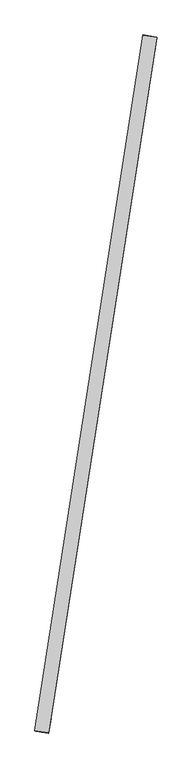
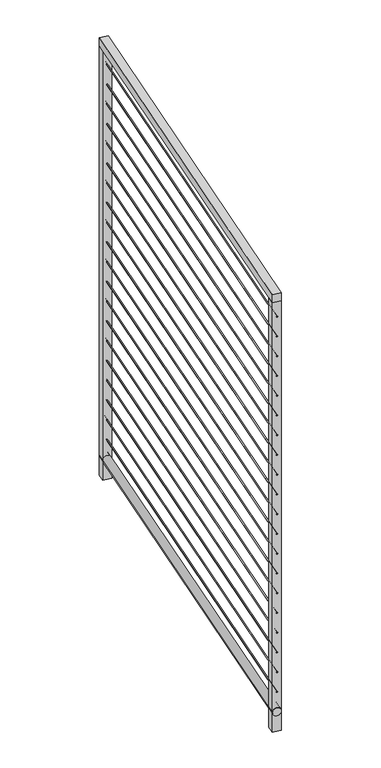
"""IFC4 building model written with IfcOpenShell, lengths in millimetres: railing geometry, Reja acceso."""

from ifc_helpers import new_model, si_unit, point, frame, origin, origin_2d, place, context, project, spatial, polyline, circle_curve, trimmed, segment, composite_curve, outline, extrude, source, transform, mapped, element, save


def railing_c11fd881(model_context):
    return source(origin(), model_context, "Body", "SweptSolid", [
        extrude(outline(polyline([(-41937.5554049, -60729.8911483), (-41898.0326326, -60736.0515435), (-42205.1089787, -62706.1375806), (-42244.631751, -62699.9771854), (-41937.5554049, -60729.8911483)])), frame((0.0, 0.0, 2025.385397), z_axis=(0.0, 0.0, 1.0), x_axis=(1.0, 0.0, 0.0)), (0.0, 0.0, 1.0), 40.0),
        extrude(outline(composite_curve([segment(trimmed(circle_curve(origin_2d(), 2.5), [point((2.5, 0.0))], [point((-2.4999999, 0.0))], False, "CARTESIAN"), True, "CONTINUOUS"), segment(trimmed(circle_curve(origin_2d(), 2.5), [point((-2.4999999, 0.0))], [point((2.5, 0.0))], False, "CARTESIAN"), True, "CONTINUOUS")], self_intersect=False)), frame((-42224.8703649, -62703.057383, 1950.0), z_axis=(0.154009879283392, 0.9880693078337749, 0.0), x_axis=(0.9880693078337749, -0.154009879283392, 0.0)), (0.0, 0.0, 1.0), 1993.8743381),
        extrude(outline(composite_curve([segment(trimmed(circle_curve(origin_2d(), 2.5), [point((2.5, 0.0))], [point((-2.4999999, 0.0))], False, "CARTESIAN"), True, "CONTINUOUS"), segment(trimmed(circle_curve(origin_2d(), 2.5), [point((-2.4999999, 0.0))], [point((2.5, 0.0))], False, "CARTESIAN"), True, "CONTINUOUS")], self_intersect=False)), frame((-42224.8703649, -62703.057383, 1850.0), z_axis=(0.154009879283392, 0.9880693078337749, 0.0), x_axis=(0.9880693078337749, -0.154009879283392, 0.0)), (0.0, 0.0, 1.0), 1993.8743381),
        extrude(outline(composite_curve([segment(trimmed(circle_curve(origin_2d(), 2.5), [point((2.5, 0.0))], [point((-2.4999999, 0.0))], False, "CARTESIAN"), True, "CONTINUOUS"), segment(trimmed(circle_curve(origin_2d(), 2.5), [point((-2.4999999, 0.0))], [point((2.5, 0.0))], False, "CARTESIAN"), True, "CONTINUOUS")], self_intersect=False)), frame((-42224.8703649, -62703.057383, 1750.0), z_axis=(0.154009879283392, 0.9880693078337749, 0.0), x_axis=(0.9880693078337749, -0.154009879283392, 0.0)), (0.0, 0.0, 1.0), 1993.8743381),
        extrude(outline(composite_curve([segment(trimmed(circle_curve(origin_2d(), 2.5), [point((2.5, 0.0))], [point((-2.4999999, 0.0))], False, "CARTESIAN"), True, "CONTINUOUS"), segment(trimmed(circle_curve(origin_2d(), 2.5), [point((-2.4999999, 0.0))], [point((2.5, 0.0))], False, "CARTESIAN"), True, "CONTINUOUS")], self_intersect=False)), frame((-42224.8703649, -62703.057383, 1650.0), z_axis=(0.154009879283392, 0.9880693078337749, 0.0), x_axis=(0.9880693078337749, -0.154009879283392, 0.0)), (0.0, 0.0, 1.0), 1993.8743381),
        extrude(outline(composite_curve([segment(trimmed(circle_curve(origin_2d(), 2.5), [point((2.5, 0.0))], [point((-2.4999999, 0.0))], False, "CARTESIAN"), True, "CONTINUOUS"), segment(trimmed(circle_curve(origin_2d(), 2.5), [point((-2.4999999, 0.0))], [point((2.5, 0.0))], False, "CARTESIAN"), True, "CONTINUOUS")], self_intersect=False)), frame((-42224.8703649, -62703.057383, 1550.0), z_axis=(0.154009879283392, 0.9880693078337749, 0.0), x_axis=(0.9880693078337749, -0.154009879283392, 0.0)), (0.0, 0.0, 1.0), 1993.8743381),
        extrude(outline(composite_curve([segment(trimmed(circle_curve(origin_2d(), 2.5), [point((2.5, 0.0))], [point((-2.4999999, 0.0))], False, "CARTESIAN"), True, "CONTINUOUS"), segment(trimmed(circle_curve(origin_2d(), 2.5), [point((-2.4999999, 0.0))], [point((2.5, 0.0))], False, "CARTESIAN"), True, "CONTINUOUS")], self_intersect=False)), frame((-42224.8703649, -62703.057383, 1450.0), z_axis=(0.154009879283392, 0.9880693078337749, 0.0), x_axis=(0.9880693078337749, -0.154009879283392, 0.0)), (0.0, 0.0, 1.0), 1993.8743381),
        extrude(outline(composite_curve([segment(trimmed(circle_curve(origin_2d(), 2.5), [point((2.5, 0.0))], [point((-2.4999999, 0.0))], False, "CARTESIAN"), True, "CONTINUOUS"), segment(trimmed(circle_curve(origin_2d(), 2.5), [point((-2.4999999, 0.0))], [point((2.5, 0.0))], False, "CARTESIAN"), True, "CONTINUOUS")], self_intersect=False)), frame((-42224.8703649, -62703.057383, 1350.0), z_axis=(0.154009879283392, 0.9880693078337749, 0.0), x_axis=(0.9880693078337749, -0.154009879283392, 0.0)), (0.0, 0.0, 1.0), 1993.8743381),
        extrude(outline(composite_curve([segment(trimmed(circle_curve(origin_2d(), 2.5), [point((2.5, 0.0))], [point((-2.4999999, 0.0))], False, "CARTESIAN"), True, "CONTINUOUS"), segment(trimmed(circle_curve(origin_2d(), 2.5), [point((-2.4999999, 0.0))], [point((2.5, 0.0))], False, "CARTESIAN"), True, "CONTINUOUS")], self_intersect=False)), frame((-42224.8703649, -62703.057383, 1250.0), z_axis=(0.154009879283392, 0.9880693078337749, 0.0), x_axis=(0.9880693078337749, -0.154009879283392, 0.0)), (0.0, 0.0, 1.0), 1993.8743381),
        extrude(outline(composite_curve([segment(trimmed(circle_curve(origin_2d(), 2.5), [point((2.5, 0.0))], [point((-2.4999999, 0.0))], False, "CARTESIAN"), True, "CONTINUOUS"), segment(trimmed(circle_curve(origin_2d(), 2.5), [point((-2.4999999, 0.0))], [point((2.5, 0.0))], False, "CARTESIAN"), True, "CONTINUOUS")], self_intersect=False)), frame((-42224.8703649, -62703.057383, 1150.0), z_axis=(0.154009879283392, 0.9880693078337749, 0.0), x_axis=(0.9880693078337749, -0.154009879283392, 0.0)), (0.0, 0.0, 1.0), 1993.8743381),
        extrude(outline(composite_curve([segment(trimmed(circle_curve(origin_2d(), 2.5), [point((2.5, 0.0))], [point((-2.4999999, 0.0))], False, "CARTESIAN"), True, "CONTINUOUS"), segment(trimmed(circle_curve(origin_2d(), 2.5), [point((-2.4999999, 0.0))], [point((2.5, 0.0))], False, "CARTESIAN"), True, "CONTINUOUS")], self_intersect=False)), frame((-42224.8703649, -62703.057383, 1050.0), z_axis=(0.154009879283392, 0.9880693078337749, 0.0), x_axis=(0.9880693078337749, -0.154009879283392, 0.0)), (0.0, 0.0, 1.0), 1993.8743381),
        extrude(outline(composite_curve([segment(trimmed(circle_curve(origin_2d(), 2.5), [point((2.5, 0.0))], [point((-2.4999999, 0.0))], False, "CARTESIAN"), True, "CONTINUOUS"), segment(trimmed(circle_curve(origin_2d(), 2.5), [point((-2.4999999, 0.0))], [point((2.5, 0.0))], False, "CARTESIAN"), True, "CONTINUOUS")], self_intersect=False)), frame((-42224.8703649, -62703.057383, 950.0), z_axis=(0.154009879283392, 0.9880693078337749, 0.0), x_axis=(0.9880693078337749, -0.154009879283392, 0.0)), (0.0, 0.0, 1.0), 1993.8743381),
        extrude(outline(composite_curve([segment(trimmed(circle_curve(origin_2d(), 2.5), [point((2.5, 0.0))], [point((-2.4999999, 0.0))], False, "CARTESIAN"), True, "CONTINUOUS"), segment(trimmed(circle_curve(origin_2d(), 2.5), [point((-2.4999999, 0.0))], [point((2.5, 0.0))], False, "CARTESIAN"), True, "CONTINUOUS")], self_intersect=False)), frame((-42224.8703649, -62703.057383, 850.0), z_axis=(0.154009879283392, 0.9880693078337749, 0.0), x_axis=(0.9880693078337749, -0.154009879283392, 0.0)), (0.0, 0.0, 1.0), 1993.8743381),
        extrude(outline(composite_curve([segment(trimmed(circle_curve(origin_2d(), 2.5), [point((2.5, 0.0))], [point((-2.4999999, 0.0))], False, "CARTESIAN"), True, "CONTINUOUS"), segment(trimmed(circle_curve(origin_2d(), 2.5), [point((-2.4999999, 0.0))], [point((2.5, 0.0))], False, "CARTESIAN"), True, "CONTINUOUS")], self_intersect=False)), frame((-42224.8703649, -62703.057383, 750.0), z_axis=(0.154009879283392, 0.9880693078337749, 0.0), x_axis=(0.9880693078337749, -0.154009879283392, 0.0)), (0.0, 0.0, 1.0), 1993.8743381),
        extrude(outline(composite_curve([segment(trimmed(circle_curve(origin_2d(), 2.5), [point((2.5, 0.0))], [point((-2.4999999, 0.0))], False, "CARTESIAN"), True, "CONTINUOUS"), segment(trimmed(circle_curve(origin_2d(), 2.5), [point((-2.4999999, 0.0))], [point((2.5, 0.0))], False, "CARTESIAN"), True, "CONTINUOUS")], self_intersect=False)), frame((-42224.8703649, -62703.057383, 650.0), z_axis=(0.154009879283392, 0.9880693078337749, 0.0), x_axis=(0.9880693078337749, -0.154009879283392, 0.0)), (0.0, 0.0, 1.0), 1993.8743381),
        extrude(outline(composite_curve([segment(trimmed(circle_curve(origin_2d(), 2.5), [point((2.5, 0.0))], [point((-2.4999999, 0.0))], False, "CARTESIAN"), True, "CONTINUOUS"), segment(trimmed(circle_curve(origin_2d(), 2.5), [point((-2.4999999, 0.0))], [point((2.5, 0.0))], False, "CARTESIAN"), True, "CONTINUOUS")], self_intersect=False)), frame((-42224.8703649, -62703.057383, 550.0), z_axis=(0.154009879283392, 0.9880693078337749, 0.0), x_axis=(0.9880693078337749, -0.154009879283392, 0.0)), (0.0, 0.0, 1.0), 1993.8743381),
        extrude(outline(composite_curve([segment(trimmed(circle_curve(origin_2d(), 2.5), [point((2.5, 0.0))], [point((-2.4999999, 0.0))], False, "CARTESIAN"), True, "CONTINUOUS"), segment(trimmed(circle_curve(origin_2d(), 2.5), [point((-2.4999999, 0.0))], [point((2.5, 0.0))], False, "CARTESIAN"), True, "CONTINUOUS")], self_intersect=False)), frame((-42224.8703649, -62703.057383, 450.0), z_axis=(0.154009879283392, 0.9880693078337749, 0.0), x_axis=(0.9880693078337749, -0.154009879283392, 0.0)), (0.0, 0.0, 1.0), 1993.8743381),
        extrude(outline(composite_curve([segment(trimmed(circle_curve(origin_2d(), 2.5), [point((2.5, 0.0))], [point((-2.4999999, 0.0))], False, "CARTESIAN"), True, "CONTINUOUS"), segment(trimmed(circle_curve(origin_2d(), 2.5), [point((-2.4999999, 0.0))], [point((2.5, 0.0))], False, "CARTESIAN"), True, "CONTINUOUS")], self_intersect=False)), frame((-42224.8703649, -62703.057383, 350.0), z_axis=(0.154009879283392, 0.9880693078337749, 0.0), x_axis=(0.9880693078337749, -0.154009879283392, 0.0)), (0.0, 0.0, 1.0), 1993.8743381),
        extrude(outline(composite_curve([segment(trimmed(circle_curve(origin_2d(), 2.5), [point((2.5, 0.0))], [point((-2.4999999, 0.0))], False, "CARTESIAN"), True, "CONTINUOUS"), segment(trimmed(circle_curve(origin_2d(), 2.5), [point((-2.4999999, 0.0))], [point((2.5, 0.0))], False, "CARTESIAN"), True, "CONTINUOUS")], self_intersect=False)), frame((-42224.8703649, -62703.057383, 250.0), z_axis=(0.154009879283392, 0.9880693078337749, 0.0), x_axis=(0.9880693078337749, -0.154009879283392, 0.0)), (0.0, 0.0, 1.0), 1993.8743381),
        extrude(outline(composite_curve([segment(trimmed(circle_curve(origin_2d(), 2.5), [point((2.5, 0.0))], [point((-2.4999999, 0.0))], False, "CARTESIAN"), True, "CONTINUOUS"), segment(trimmed(circle_curve(origin_2d(), 2.5), [point((-2.4999999, 0.0))], [point((2.5, 0.0))], False, "CARTESIAN"), True, "CONTINUOUS")], self_intersect=False)), frame((-42224.8703649, -62703.057383, 150.0), z_axis=(0.154009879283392, 0.9880693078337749, 0.0), x_axis=(0.9880693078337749, -0.154009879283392, 0.0)), (0.0, 0.0, 1.0), 1993.8743381),
        extrude(outline(composite_curve([segment(trimmed(circle_curve(origin_2d(), 2.5), [point((2.5, 0.0))], [point((-2.4999999, 0.0))], False, "CARTESIAN"), True, "CONTINUOUS"), segment(trimmed(circle_curve(origin_2d(), 2.5), [point((-2.4999999, 0.0))], [point((2.5, 0.0))], False, "CARTESIAN"), True, "CONTINUOUS")], self_intersect=False)), frame((-42224.8703649, -62703.057383, 50.0), z_axis=(0.154009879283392, 0.9880693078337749, 0.0), x_axis=(0.9880693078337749, -0.154009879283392, 0.0)), (0.0, 0.0, 1.0), 1993.8743381),
        extrude(outline(composite_curve([segment(trimmed(circle_curve(origin_2d(), 20.0), [point((20.0, 0.0))], [point((-19.9999999, 0.0))], False, "CARTESIAN"), True, "CONTINUOUS"), segment(trimmed(circle_curve(origin_2d(), 20.0), [point((-19.9999999, 0.0))], [point((20.0, 0.0))], False, "CARTESIAN"), True, "CONTINUOUS")], self_intersect=False)), frame((-42224.8703649, -62703.057383, -50.0), z_axis=(0.154009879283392, 0.9880693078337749, 0.0), x_axis=(0.9880693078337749, -0.154009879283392, 0.0)), (0.0, 0.0, 1.0), 1993.8743381),
        extrude(outline(polyline([(-42198.7972195, -62665.6437136), (-42204.9576147, -62705.166486), (-42244.480387, -62699.0060908), (-42238.3199918, -62659.4833185), (-42198.7972195, -62665.6437136)])), frame((0.0, 0.0, -150.0), z_axis=(0.0, 0.0, 1.0), x_axis=(1.0, 0.0, 0.0)), (0.0, 0.0, 1.0), 2175.385397),
        extrude(outline(polyline([(-41897.8812686, -60735.0804488), (-41904.0416637, -60774.6032212), (-41943.564436, -60768.442826), (-41937.4040409, -60728.9200537), (-41897.8812686, -60735.0804488)])), frame((0.0, 0.0, -150.0), z_axis=(0.0, 0.0, 1.0), x_axis=(1.0, 0.0, 0.0)), (0.0, 0.0, 1.0), 2175.385397),
    ])


if __name__ == "__main__":
    model = new_model("IFC4")
    model_context = context("Model", 3, world=origin())
    ifc_project = project(units=[si_unit("LENGTHUNIT", "METRE", prefix="MILLI")], contexts=[model_context])
    site = spatial("IfcSite", under=ifc_project)
    building = spatial("IfcBuilding", under=site)
    placement = place(None, origin())
    railing_shape = railing_c11fd881(model_context)
    element("IfcRailing", 1, ObjectType="Reja acceso", at=placement, inside=building, context=model_context, shape_type="MappedRepresentation", body=[
        mapped(railing_shape, transform((0.0, 0.0, 0.0), x_axis=(1.0, 0.0, 0.0), y_axis=(0.0, 1.0, 0.0), z_axis=(0.0, 0.0, 1.0))),
    ])
    save(model, "model.ifc")
